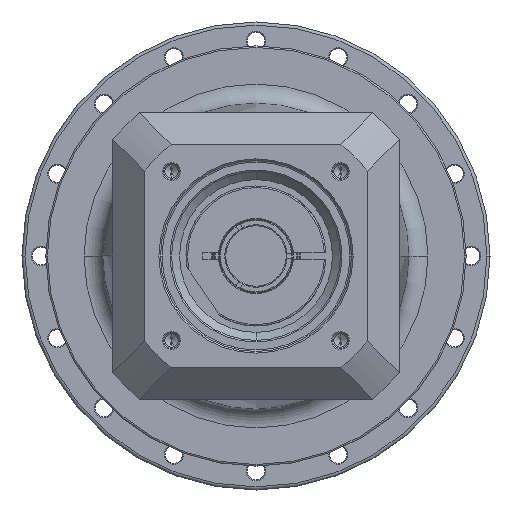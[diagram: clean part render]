
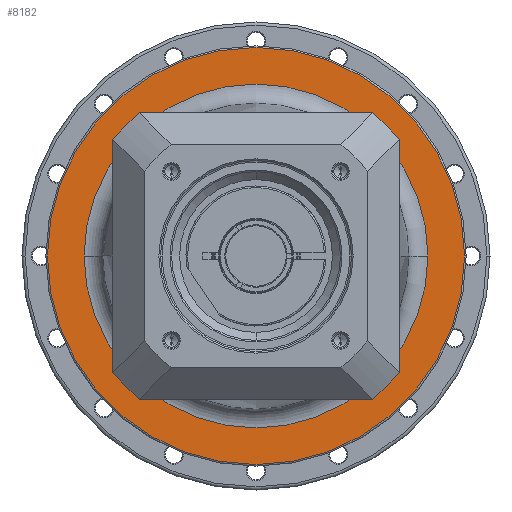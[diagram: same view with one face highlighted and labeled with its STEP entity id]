
A CAD part, left-side view. The second image highlights one B-rep face of the part: STEP entity #8182.
In plain terms, the highlighted planar face has unit normal (-1, 0, 0) as drawn and (1, 0, 0) by its records, which use the part's own axes.
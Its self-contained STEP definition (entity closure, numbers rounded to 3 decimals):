
#7722=CARTESIAN_POINT('',(-40.,0.,0.));
#7723=DIRECTION('',(-1.,0.,0.));
#7724=DIRECTION('',(0.,1.,0.));
#7725=AXIS2_PLACEMENT_3D('',#7722,#7723,#7724);
#7732=CARTESIAN_POINT('',(-40.,0.,0.));
#7733=DIRECTION('',(1.,0.,0.));
#7734=DIRECTION('',(0.,1.,0.));
#7735=AXIS2_PLACEMENT_3D('',#7732,#7733,#7734);
#7737=CARTESIAN_POINT('',(-40.,0.,0.));
#7738=DIRECTION('',(-1.,0.,0.));
#7739=DIRECTION('',(0.,-1.,0.));
#7740=AXIS2_PLACEMENT_3D('',#7737,#7738,#7739);
#7742=CARTESIAN_POINT('',(-40.,0.,0.));
#7743=DIRECTION('',(-1.,0.,0.));
#7744=DIRECTION('',(0.,1.,0.));
#7745=AXIS2_PLACEMENT_3D('',#7742,#7743,#7744);
#7867=CARTESIAN_POINT('',(-40.,-65.5,0.));
#7868=CARTESIAN_POINT('',(-40.,65.5,0.));
#7869=VERTEX_POINT('',#7867);
#7870=VERTEX_POINT('',#7868);
#7895=CARTESIAN_POINT('',(-40.,54.,0.));
#7897=VERTEX_POINT('',#7895);
#7899=CARTESIAN_POINT('',(-40.,-54.,0.));
#7901=VERTEX_POINT('',#7899);
#8167=CARTESIAN_POINT('',(-40.,0.,0.));
#8168=DIRECTION('',(1.,0.,0.));
#8169=DIRECTION('',(0.,-1.,0.));
#8170=AXIS2_PLACEMENT_3D('',#8167,#8168,#8169);
#8171=PLANE('',#8170);
#8173=ORIENTED_EDGE('',*,*,#8172,.T.);
#8175=ORIENTED_EDGE('',*,*,#8174,.T.);
#8176=EDGE_LOOP('',(#8173,#8175));
#8177=FACE_OUTER_BOUND('',#8176,.F.);
#8178=ORIENTED_EDGE('',*,*,#8162,.T.);
#8179=ORIENTED_EDGE('',*,*,#8146,.F.);
#8180=EDGE_LOOP('',(#8178,#8179));
#8181=FACE_BOUND('',#8180,.F.);
#8182=ADVANCED_FACE('',(#8177,#8181),#8171,.T.);
#7726=CIRCLE('',#7725,54.);
#7736=CIRCLE('',#7735,54.);
#7741=CIRCLE('',#7740,65.5);
#7746=CIRCLE('',#7745,65.5);
#8146=EDGE_CURVE('',#7897,#7901,#7726,.T.);
#8162=EDGE_CURVE('',#7897,#7901,#7736,.T.);
#8172=EDGE_CURVE('',#7869,#7870,#7741,.T.);
#8174=EDGE_CURVE('',#7870,#7869,#7746,.T.);
